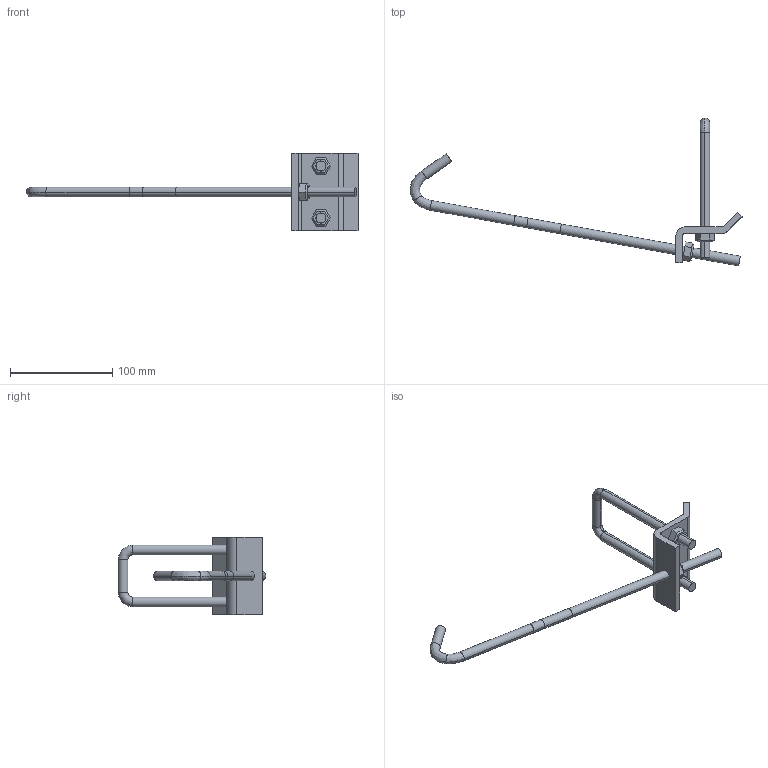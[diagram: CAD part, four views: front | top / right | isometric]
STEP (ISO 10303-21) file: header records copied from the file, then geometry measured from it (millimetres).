
FILE_DESCRIPTION(('TurboCAD Mac Pro'),'Build 980');
FILE_NAME('P2867A-12.stp',' ',(''),(''),'ACIS Interop','IMSI','TurboCAD Mac Pro BY IMSI, INCORPORATED');
FILE_SCHEMA(('automotive_design'));
Length unit declared in the file: inch
Products named in the file (6): 1; 2; 3; 4; 5; 6
Bounding box: 324.58 x 144.4 x 76.2 mm (x, y, z)
Volume: 97335.9 mm3; surface area: 40199.2 mm2
Topology: 6 solids, 6 shells, 100 faces, 226 edges, 138 vertices
Faces by surface type: plane 56, bspline 24, cylinder 20
Entity records: 5640 total; most frequent: CARTESIAN_POINT 1602, ORIENTED_EDGE 452, DIRECTION 382, STYLED_ITEM 304, PRESENTATION_STYLE_ASSIGNMENT 304, COLOUR_RGB 304, EDGE_CURVE 226, CURVE_STYLE 198
